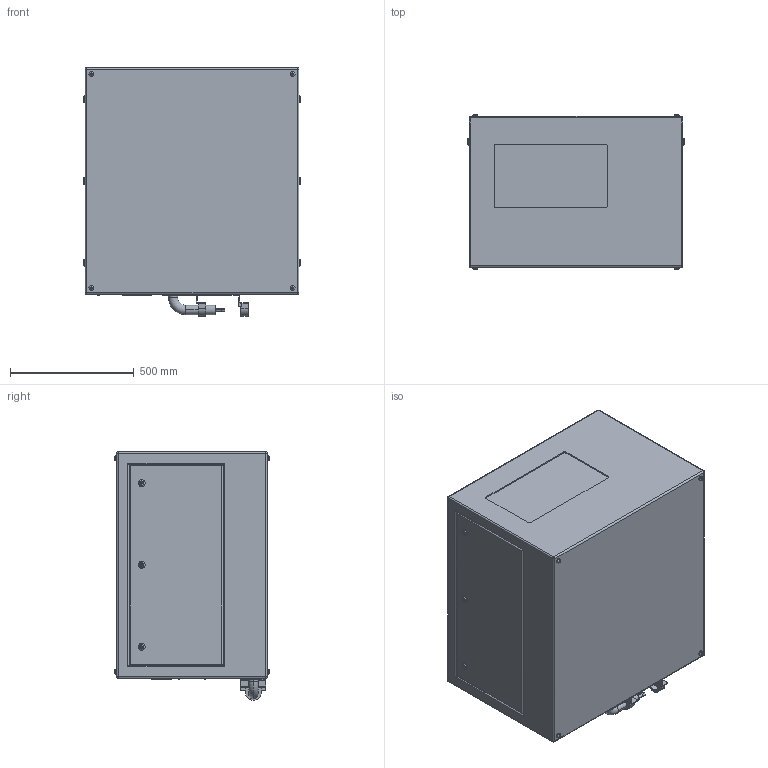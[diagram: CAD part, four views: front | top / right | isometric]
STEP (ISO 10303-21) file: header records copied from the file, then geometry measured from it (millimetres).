
FILE_DESCRIPTION (( 'STEP AP214' ), '1' );
FILE_NAME ('Oasis 59.200.L R02.STEP', '2022-09-12T23:36:08', ( '' ), ( '' ), 'SwSTEP 2.0', 'SolidWorks 2020', '' );
FILE_SCHEMA (( 'AUTOMOTIVE_DESIGN' ));
Length unit declared in the file: inch
Products named in the file (1): Oasis 59.200.L R02
Bounding box: 876.3 x 626.87 x 1003.3 mm (x, y, z)
Volume: 480802735.7 mm3; surface area: 4162834.3 mm2
Topology: 3 solids, 9 shells, 480 faces, 1099 edges, 696 vertices
Faces by surface type: plane 261, cylinder 169, torus 42, bspline 8
Entity records: 18195 total; most frequent: CARTESIAN_POINT 2788, DIRECTION 2391, ORIENTED_EDGE 2182, EDGE_CURVE 1091, AXIS2_PLACEMENT_3D 859, VERTEX_POINT 696, LINE 673, VECTOR 673
